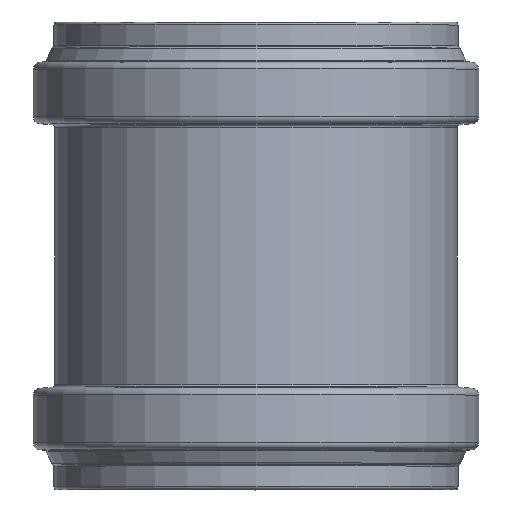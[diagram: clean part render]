
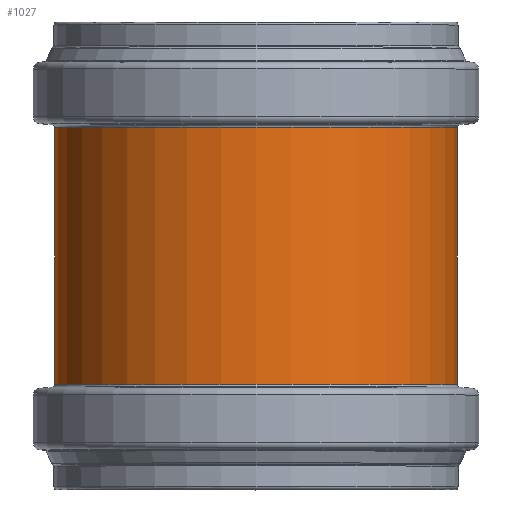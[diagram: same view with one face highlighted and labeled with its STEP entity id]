
A CAD part, top view. The second image highlights one B-rep face of the part: STEP entity #1027.
In plain terms, the highlighted cylindrical face has radius 58.6 mm (diameter 117.2 mm), a full revolution.
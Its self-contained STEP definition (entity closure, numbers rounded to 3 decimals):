
#40=CYLINDRICAL_SURFACE('',#1239,58.6);
#127=FACE_OUTER_BOUND('',#193,.T.);
#193=EDGE_LOOP('',(#945,#946,#947,#948,#949,#950));
#220=LINE('',#1976,#246);
#246=VECTOR('',#1651,58.6);
#374=CIRCLE('',#1237,58.6);
#375=CIRCLE('',#1238,58.6);
#376=CIRCLE('',#1240,58.6);
#377=CIRCLE('',#1241,58.6);
#479=VERTEX_POINT('',#1966);
#480=VERTEX_POINT('',#1968);
#481=VERTEX_POINT('',#1972);
#482=VERTEX_POINT('',#1973);
#635=EDGE_CURVE('',#480,#479,#374,.T.);
#636=EDGE_CURVE('',#479,#480,#375,.T.);
#637=EDGE_CURVE('',#481,#482,#376,.T.);
#638=EDGE_CURVE('',#482,#481,#377,.T.);
#639=EDGE_CURVE('',#482,#480,#220,.T.);
#945=ORIENTED_EDGE('',*,*,#637,.F.);
#946=ORIENTED_EDGE('',*,*,#638,.F.);
#947=ORIENTED_EDGE('',*,*,#639,.T.);
#948=ORIENTED_EDGE('',*,*,#635,.T.);
#949=ORIENTED_EDGE('',*,*,#636,.T.);
#950=ORIENTED_EDGE('',*,*,#639,.F.);
#1027=ADVANCED_FACE('',(#127),#40,.T.);
#1237=AXIS2_PLACEMENT_3D('',#1969,#1641,#1642);
#1238=AXIS2_PLACEMENT_3D('',#1970,#1643,#1644);
#1239=AXIS2_PLACEMENT_3D('',#1971,#1645,#1646);
#1240=AXIS2_PLACEMENT_3D('',#1974,#1647,#1648);
#1241=AXIS2_PLACEMENT_3D('',#1975,#1649,#1650);
#1641=DIRECTION('center_axis',(0.,-1.,0.));
#1642=DIRECTION('ref_axis',(1.,0.,0.));
#1643=DIRECTION('center_axis',(0.,-1.,0.));
#1644=DIRECTION('ref_axis',(1.,0.,0.));
#1645=DIRECTION('center_axis',(0.,-1.,0.));
#1646=DIRECTION('ref_axis',(-1.,0.,0.));
#1647=DIRECTION('center_axis',(0.,-1.,0.));
#1648=DIRECTION('ref_axis',(1.,0.,0.));
#1649=DIRECTION('center_axis',(0.,-1.,0.));
#1650=DIRECTION('ref_axis',(1.,0.,0.));
#1651=DIRECTION('',(0.,1.,0.));
#1966=CARTESIAN_POINT('',(0.,105.384,58.6));
#1968=CARTESIAN_POINT('',(58.6,105.384,0.));
#1969=CARTESIAN_POINT('Origin',(0.,105.384,0.));
#1970=CARTESIAN_POINT('Origin',(0.,105.384,0.));
#1971=CARTESIAN_POINT('Origin',(0.,68.,0.));
#1972=CARTESIAN_POINT('',(0.,30.616,58.6));
#1973=CARTESIAN_POINT('',(58.6,30.616,0.));
#1974=CARTESIAN_POINT('Origin',(0.,30.616,0.));
#1975=CARTESIAN_POINT('Origin',(0.,30.616,0.));
#1976=CARTESIAN_POINT('',(58.6,68.,0.));
